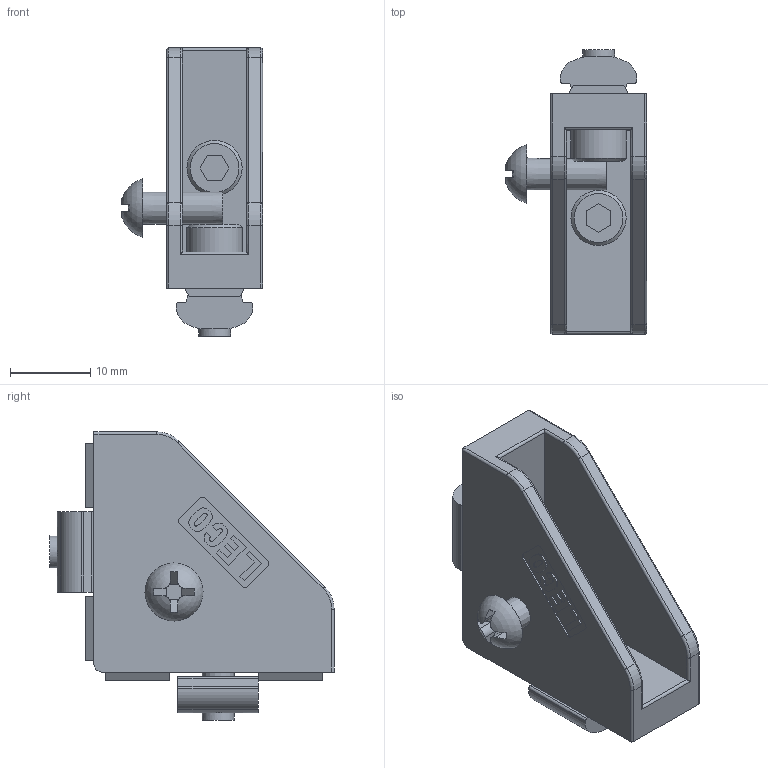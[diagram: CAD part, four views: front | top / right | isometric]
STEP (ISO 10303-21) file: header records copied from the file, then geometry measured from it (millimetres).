
FILE_DESCRIPTION(('STEP AP214'),'1');
FILE_NAME('BL25-B.stp','2021-12-27T02:57:18',(' '),(' '),'Spatial InterOp 3D',' ',' ');
FILE_SCHEMA(('AUTOMOTIVE_DESIGN { 1 0 10303 214 1 1 1 1 }'));
Length unit declared in the file: millimetre
Products named in the file (7): BL25-B; BL25-H; NF25-M4; ねじ: 穴付き - M4.0 x 10.0; ねじ: 丸頭 - M4.0 x 10.0
Assembly tree (6 placements, depth 2):
  BL25-B
    BL25-H
    NF25-M4
    NF25-M4
    ねじ: 穴付き - M4.0 x 10.0
    ねじ: 穴付き - M4.0 x 10.0
    ねじ: 丸頭 - M4.0 x 10.0
Bounding box: 17.64 x 35.5 x 36 mm (x, y, z)
Volume: 6058 mm3; surface area: 5363.2 mm2
Topology: 6 solids, 6 shells, 298 faces, 773 edges, 506 vertices
Faces by surface type: plane 165, cylinder 119, torus 8, cone 5, sphere 1
Full cylindrical faces by diameter (mm): 4 x4, 4.5 x2, 6.9 x2
Entity records: 11631 total; most frequent: CARTESIAN_POINT 1632, DIRECTION 1617, ORIENTED_EDGE 1508, EDGE_CURVE 754, AXIS2_PLACEMENT_3D 566, VERTEX_POINT 501, LINE 485, VECTOR 485
